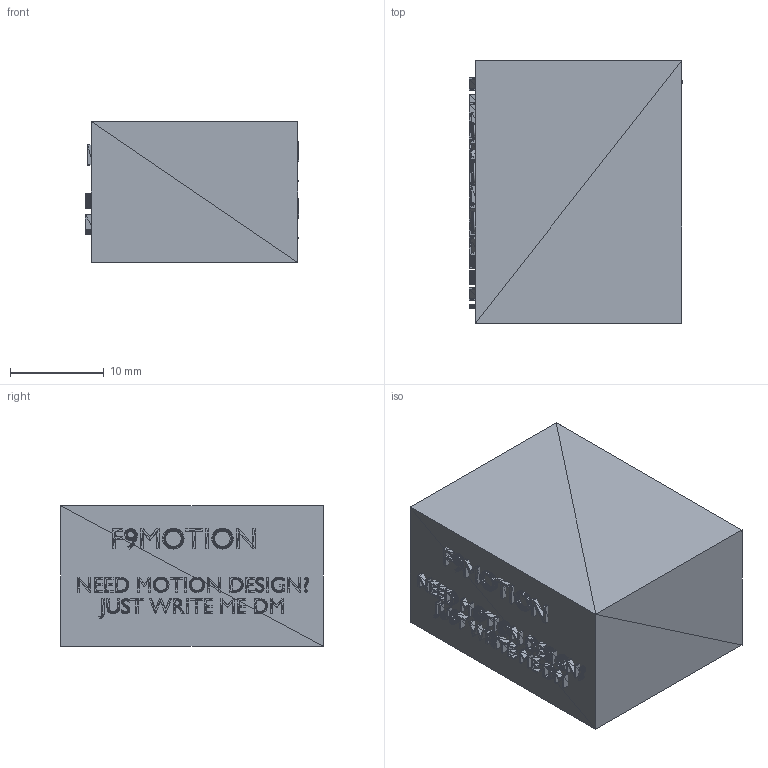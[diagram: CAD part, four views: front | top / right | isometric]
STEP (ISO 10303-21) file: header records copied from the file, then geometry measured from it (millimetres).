
FILE_DESCRIPTION((''),'2;1');
FILE_NAME('back', '2026-10-03T10:00:19', (''), (''), 'ImageToStl.com STEP Converter','', '');
FILE_SCHEMA(('AUTOMOTIVE_DESIGN_CC2'));
Length unit declared in the file: metre
Products named in the file (1): product0
Bounding box: 22.7 x 28 x 15 mm (x, y, z)
Surface area: 4477.2 mm2 (no closed solid volume)
Topology: 0 solids, 7266 shells, 7266 faces, 21782 edges, 3691 vertices
Faces by surface type: plane 7266
Entity records: 167262 total; most frequent: DIRECTION 36332, ORIENTED_EDGE 21798, EDGE_CURVE 21798, LINE 21798, VECTOR 21798, AXIS2_PLACEMENT_3D 7267, FACE_SURFACE 7266, PLANE 7266
